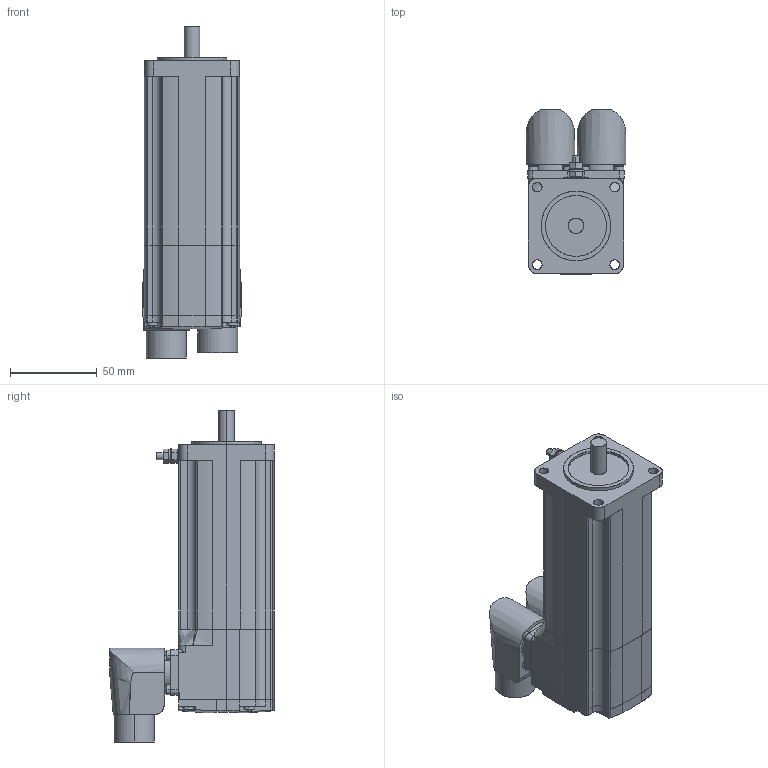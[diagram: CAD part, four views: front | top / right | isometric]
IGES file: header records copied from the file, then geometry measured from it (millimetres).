
Start section: SolidWorks IGES file using analytic representation for surfaces
Global section: file name: C:\PDM\SW-SAP\AA-IGES\SH30552x0xA2100.IGS; native system: SolidWorks 2010; preprocessor: SolidWorks 2010; author: SESA21951; date: 131129.081402; units: millimetre
Bounding box: 57.5 x 94.5 x 190.95 mm (x, y, z)
Surface area: 66896.9 mm2 (no closed solid volume)
Topology: 0 solids, 0 shells, 386 faces, 5815 edges, 5814 vertices
Faces by surface type: bspline 194, revolution 192
